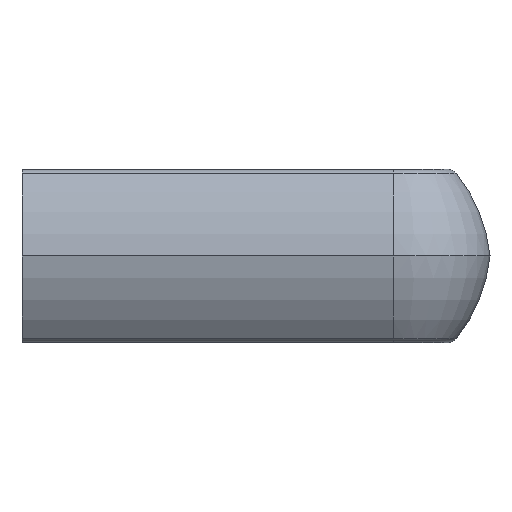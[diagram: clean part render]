
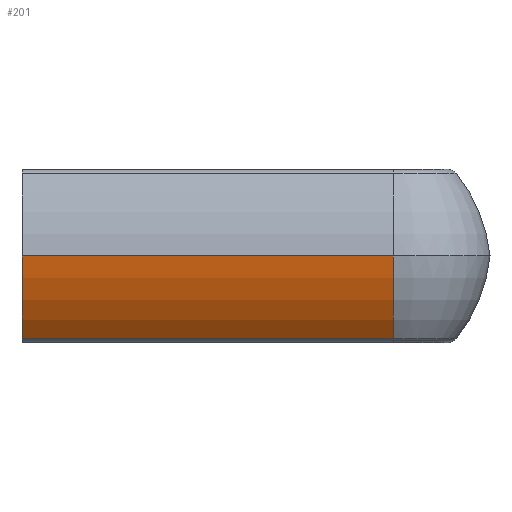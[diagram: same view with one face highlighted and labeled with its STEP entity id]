
A CAD part, left-side view. The second image highlights one B-rep face of the part: STEP entity #201.
In plain terms, the highlighted cylindrical face has radius 11.856 mm (diameter 23.711 mm), a partial arc.
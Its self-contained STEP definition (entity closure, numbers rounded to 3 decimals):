
#201 = ADVANCED_FACE( '', ( #543 ), #544, .T. );
#249 = VERTEX_POINT( '', #596 );
#269 = VERTEX_POINT( '', #618 );
#279 = EDGE_CURVE( '', #295, #249, #629, .T. );
#295 = VERTEX_POINT( '', #647 );
#381 = EDGE_CURVE( '', #441, #269, #743, .T. );
#383 = EDGE_CURVE( '', #269, #249, #745, .T. );
#441 = VERTEX_POINT( '', #810 );
#453 = EDGE_CURVE( '', #441, #295, #824, .T. );
#543 = FACE_OUTER_BOUND( '', #916, .T. );
#544 = CYLINDRICAL_SURFACE( '', #917, 11.856 );
#596 = CARTESIAN_POINT( '', ( -3., -27.75, 0. ) );
#618 = CARTESIAN_POINT( '', ( -3., 0., 0. ) );
#629 = CIRCLE( '', #1024, 11.856 );
#647 = CARTESIAN_POINT( '', ( -0.48, -27.75, -6.184 ) );
#743 = CIRCLE( '', #1171, 11.856 );
#745 = LINE( '', #1174, #1175 );
#810 = CARTESIAN_POINT( '', ( -0.48, 0., -6.184 ) );
#824 = LINE( '', #1268, #1269 );
#916 = EDGE_LOOP( '', ( #1391, #1392, #1393, #1394 ) );
#917 = AXIS2_PLACEMENT_3D( '', #1395, #1396, #1397 );
#1024 = AXIS2_PLACEMENT_3D( '', #1512, #1513, #1514 );
#1171 = AXIS2_PLACEMENT_3D( '', #1656, #1657, #1658 );
#1174 = CARTESIAN_POINT( '', ( -3., 0., 0. ) );
#1175 = VECTOR( '', #1659, 1. );
#1268 = CARTESIAN_POINT( '', ( -0.48, 0., -6.184 ) );
#1269 = VECTOR( '', #1758, 1. );
#1391 = ORIENTED_EDGE( '', *, *, #279, .T. );
#1392 = ORIENTED_EDGE( '', *, *, #383, .F. );
#1393 = ORIENTED_EDGE( '', *, *, #381, .F. );
#1394 = ORIENTED_EDGE( '', *, *, #453, .T. );
#1395 = CARTESIAN_POINT( '', ( 8.795, 0., 1.202 ) );
#1396 = DIRECTION( '', ( 0., 1., 0. ) );
#1397 = DIRECTION( '', ( -0.782, 0., -0.623 ) );
#1512 = CARTESIAN_POINT( '', ( 8.795, -27.75, 1.202 ) );
#1513 = DIRECTION( '', ( 0., 1., 0. ) );
#1514 = DIRECTION( '', ( -0.782, 0., -0.623 ) );
#1656 = CARTESIAN_POINT( '', ( 8.795, 0., 1.202 ) );
#1657 = DIRECTION( '', ( 0., 1., 0. ) );
#1658 = DIRECTION( '', ( -0.782, 0., -0.623 ) );
#1659 = DIRECTION( '', ( 0., -1., 0. ) );
#1758 = DIRECTION( '', ( 0., -1., 0. ) );
